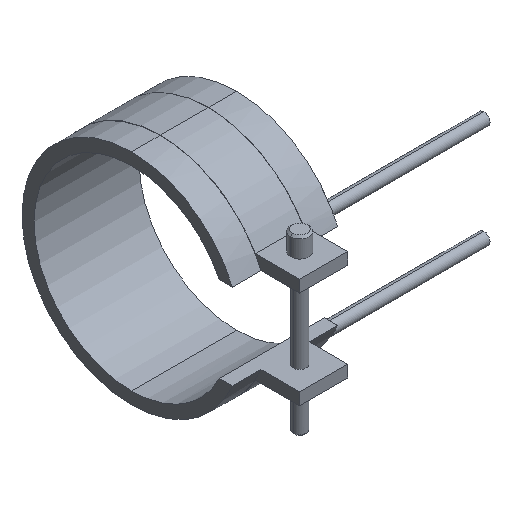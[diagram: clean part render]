
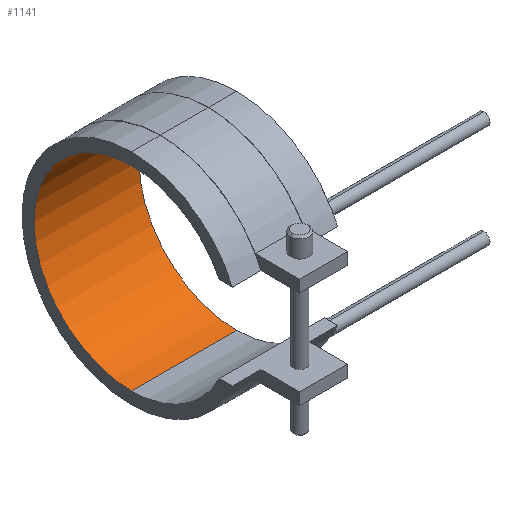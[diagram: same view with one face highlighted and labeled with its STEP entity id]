
A CAD part, isometric view. The second image highlights one B-rep face of the part: STEP entity #1141.
In plain terms, the highlighted cylindrical face has radius 32.5 mm (diameter 65 mm), a partial arc.
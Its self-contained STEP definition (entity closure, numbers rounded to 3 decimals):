
#822=CARTESIAN_POINT('Vertex',(-17.5,0.,-32.5)) ;
#829=CARTESIAN_POINT('Vertex',(17.5,0.,-32.5)) ;
#832=CARTESIAN_POINT('Line Origine',(17.5,0.,-32.5)) ;
#850=CARTESIAN_POINT('Axis2P3D Location',(-17.5,0.,0.)) ;
#854=CARTESIAN_POINT('Vertex',(-17.5,0.,32.5)) ;
#911=CARTESIAN_POINT('Vertex',(17.5,0.,32.5)) ;
#921=CARTESIAN_POINT('Line Origine',(17.5,0.,32.5)) ;
#1012=CARTESIAN_POINT('Axis2P3D Location',(17.5,0.,0.)) ;
#1130=CARTESIAN_POINT('Axis2P3D Location',(17.5,0.,0.)) ;
#833=DIRECTION('Vector Direction',(1.,0.,0.)) ;
#851=DIRECTION('Axis2P3D Direction',(1.,0.,0.)) ;
#922=DIRECTION('Vector Direction',(1.,0.,0.)) ;
#1013=DIRECTION('Axis2P3D Direction',(1.,0.,0.)) ;
#1131=DIRECTION('Axis2P3D Direction',(1.,0.,-0.)) ;
#1132=DIRECTION('Axis2P3D XDirection',(0.,0.,-1.)) ;
#852=AXIS2_PLACEMENT_3D('Circle Axis2P3D',#850,#851,$) ;
#1014=AXIS2_PLACEMENT_3D('Circle Axis2P3D',#1012,#1013,$) ;
#1133=AXIS2_PLACEMENT_3D('Cylinder Axis2P3D',#1130,#1131,#1132) ;
#1136=ORIENTED_EDGE('',*,*,#1016,.T.) ;
#1137=ORIENTED_EDGE('',*,*,#925,.T.) ;
#1138=ORIENTED_EDGE('',*,*,#856,.F.) ;
#1139=ORIENTED_EDGE('',*,*,#836,.T.) ;
#834=VECTOR('Line Direction',#833,1.) ;
#923=VECTOR('Line Direction',#922,1.) ;
#1141=ADVANCED_FACE('14065035',(#1140),#1134,.F.) ;
#853=CIRCLE('generated circle',#852,32.5) ;
#1015=CIRCLE('generated circle',#1014,32.5) ;
#1134=CYLINDRICAL_SURFACE('generated cylinder',#1133,32.5) ;
#836=EDGE_CURVE('',#823,#830,#835,.T.) ;
#856=EDGE_CURVE('',#823,#855,#853,.T.) ;
#925=EDGE_CURVE('',#912,#855,#924,.F.) ;
#1016=EDGE_CURVE('',#830,#912,#1015,.T.) ;
#1135=EDGE_LOOP('',(#1136,#1137,#1138,#1139)) ;
#1140=FACE_OUTER_BOUND('',#1135,.T.) ;
#835=LINE('Line',#832,#834) ;
#924=LINE('Line',#921,#923) ;
#823=VERTEX_POINT('',#822) ;
#830=VERTEX_POINT('',#829) ;
#855=VERTEX_POINT('',#854) ;
#912=VERTEX_POINT('',#911) ;
